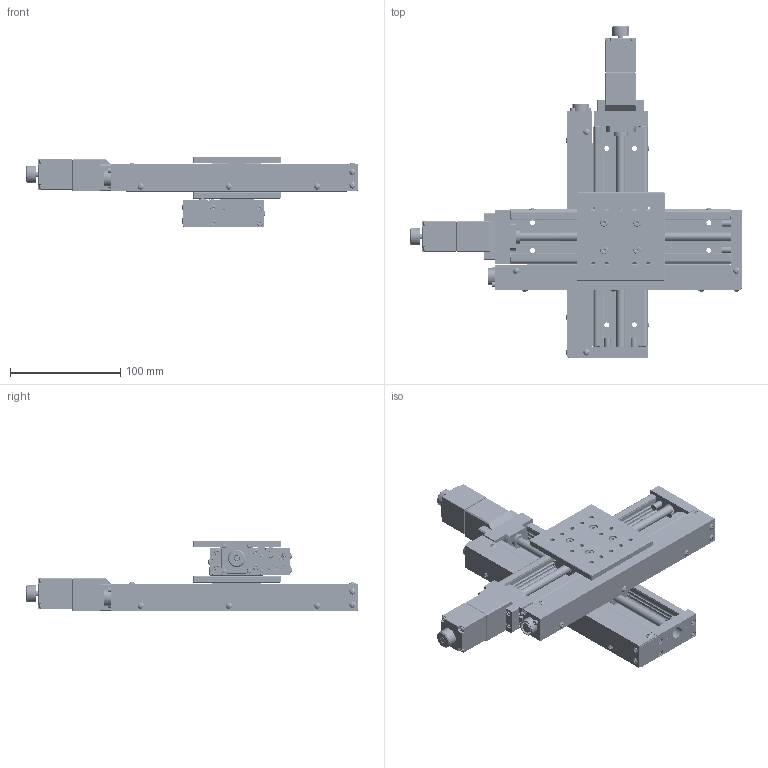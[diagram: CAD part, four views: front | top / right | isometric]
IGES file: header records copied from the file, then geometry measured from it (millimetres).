
Start section: ------------------------------------------------------------------------
Bounding box: 301 x 301 x 64 mm (x, y, z)
Surface area: 350470.4 mm2 (no closed solid volume)
Topology: 0 solids, 0 shells, 5448 faces, 25668 edges, 25342 vertices
Faces by surface type: bspline 5448
